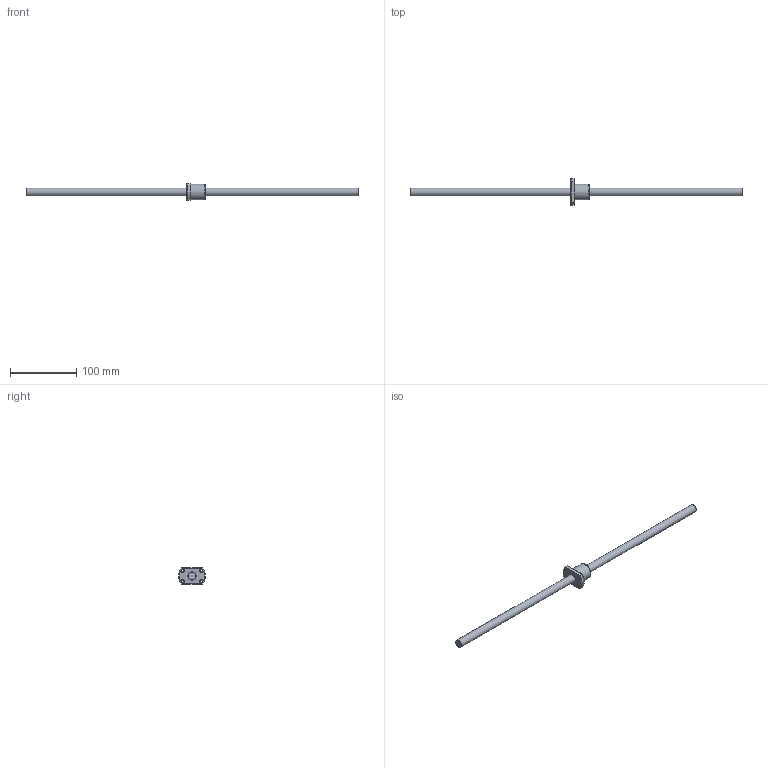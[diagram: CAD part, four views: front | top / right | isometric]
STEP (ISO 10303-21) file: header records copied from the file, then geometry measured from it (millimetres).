
FILE_DESCRIPTION (( 'STEP AP203' ), '1' );
FILE_NAME ('XSUR01204T3D-02.STEP', '2024-05-31T07:40:21', ( '' ), ( '' ), 'SwSTEP 2.0', 'SolidWorks 2022', '' );
FILE_SCHEMA (( 'CONFIG_CONTROL_DESIGN' ));
Length unit declared in the file: millimetre
Products named in the file (1): XSUR01204T3D-02
Bounding box: 500 x 40 x 25 mm (x, y, z)
Volume: 68274.9 mm3; surface area: 24188.7 mm2
Topology: 2 solids, 2 shells, 34 faces, 78 edges, 48 vertices
Faces by surface type: plane 12, cylinder 9, cone 8, torus 5
Full cylindrical faces by diameter (mm): 3.5 x4, 12 x1, 12.6 x1, 24 x1
Entity records: 1053 total; most frequent: CARTESIAN_POINT 257, DIRECTION 148, ORIENTED_EDGE 124, AXIS2_PLACEMENT_3D 67, EDGE_CURVE 62, EDGE_LOOP 60, VERTEX_POINT 48, FACE_OUTER_BOUND 42
